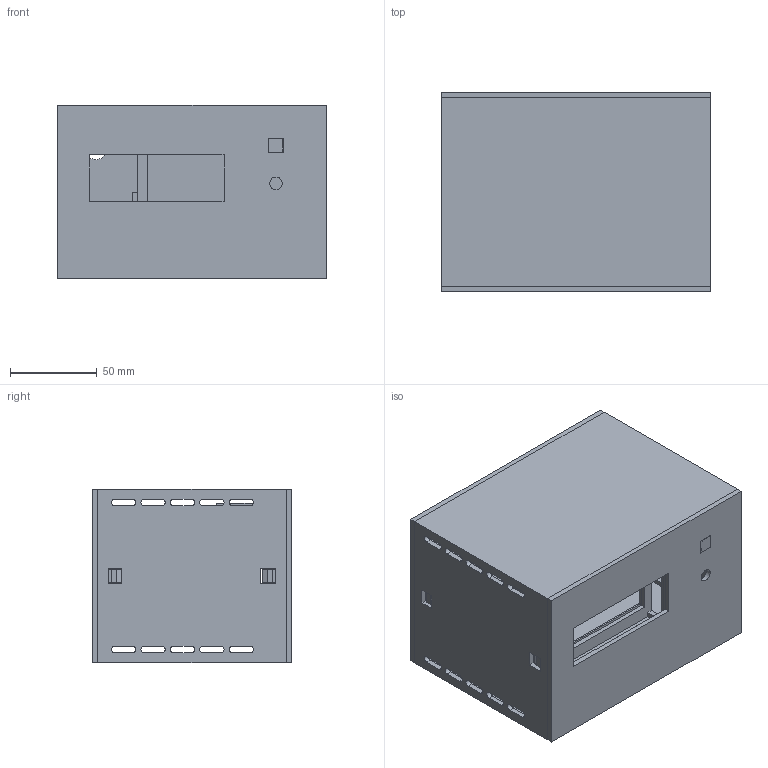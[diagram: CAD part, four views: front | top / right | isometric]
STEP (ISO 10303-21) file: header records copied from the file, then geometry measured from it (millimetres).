
FILE_DESCRIPTION(('Open CASCADE Model'),'2;1');
FILE_NAME('Open CASCADE Shape Model','2026-11-09T10:21:48',('Author'),( 'Open CASCADE'),'Open CASCADE STEP processor 7.8','Open CASCADE 7.8' ,'Unknown');
FILE_SCHEMA(('AUTOMOTIVE_DESIGN { 1 0 10303 214 1 1 1 1 }'));
Length unit declared in the file: millimetre
Products named in the file (7): Boitier_6_pieces_a_imprimer; 01_Coque_ouverte; 02_Facade_supports_LCD_A; 03_Berceau_B; 04_Panneau_arriere; 05_Fenetre_translucide; 06_Cassette_BH1750
Assembly tree (6 placements, depth 2):
  Boitier_6_pieces_a_imprimer
    01_Coque_ouverte
    02_Facade_supports_LCD_A
    03_Berceau_B
    04_Panneau_arriere
    05_Fenetre_translucide
    06_Cassette_BH1750
Bounding box: 155 x 115 x 100 mm (x, y, z)
Volume: 285786.8 mm3; surface area: 221207.1 mm2
Topology: 6 solids, 6 shells, 584 faces, 1647 edges, 1096 vertices
Faces by surface type: plane 538, cylinder 46
Full cylindrical faces by diameter (mm): 6.3 x1, 7.2 x1, 12.5 x2, 14 x1, 16 x1
Entity records: 39251 total; most frequent: CARTESIAN_POINT 7700, DIRECTION 5143, LINE 3685, VECTOR 3685, ORIENTED_EDGE 3294, PCURVE 3294, DEFINITIONAL_REPRESENTATION 3294, EDGE_CURVE 1647
